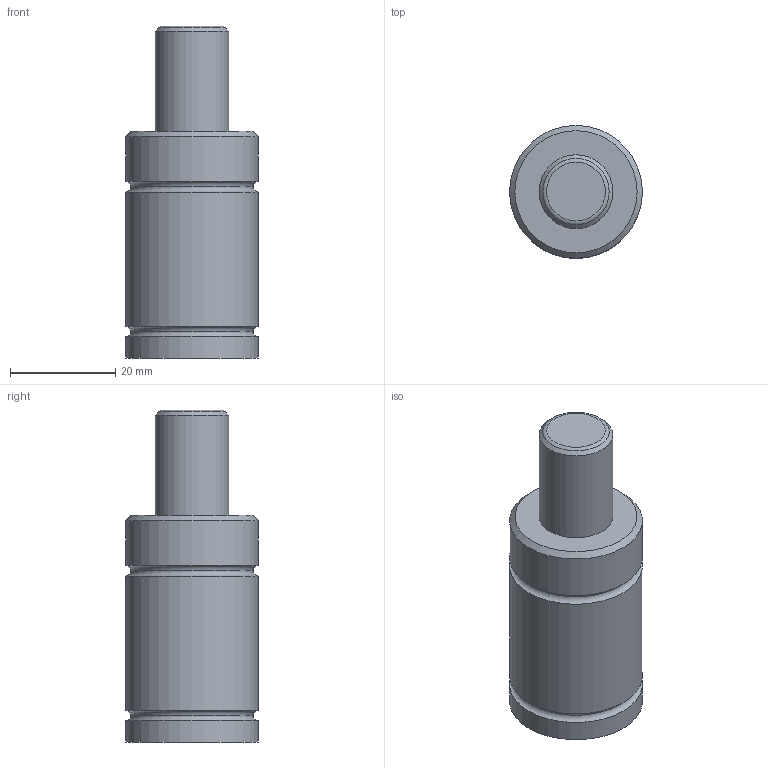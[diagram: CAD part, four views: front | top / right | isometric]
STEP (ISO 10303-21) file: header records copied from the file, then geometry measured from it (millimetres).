
FILE_DESCRIPTION(('FreeCAD Model'),'2;1');
FILE_NAME('Open CASCADE Shape Model','2024-11-11T17:11:32',('Author'),( ''),'Open CASCADE STEP processor 7.6','FreeCAD','Unknown');
FILE_SCHEMA(('AUTOMOTIVE_DESIGN { 1 0 10303 214 1 1 1 1 }'));
Length unit declared in the file: millimetre
Products named in the file (5): Unnamed; Part001; Fillet; Part003; Cut
Assembly tree (4 placements, depth 3):
  Unnamed
    Part001
      Fillet
    Part003
      Cut
Bounding box: 25.2 x 25.2 x 63 mm (x, y, z)
Volume: 24224.8 mm3; surface area: 5668.5 mm2
Topology: 2 solids, 2 shells, 15 faces, 24 edges, 13 vertices
Faces by surface type: torus 5, cylinder 4, plane 4, cone 2
Full cylindrical faces by diameter (mm): 14 x1, 25.2 x3
Entity records: 446 total; most frequent: DIRECTION 82, CARTESIAN_POINT 57, ORIENTED_EDGE 48, AXIS2_PLACEMENT_3D 38, EDGE_CURVE 24, CIRCLE 18, ADVANCED_FACE 15, FACE_BOUND 15
